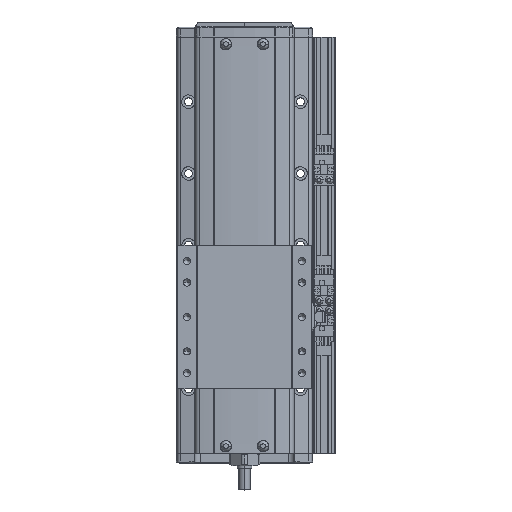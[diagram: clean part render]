
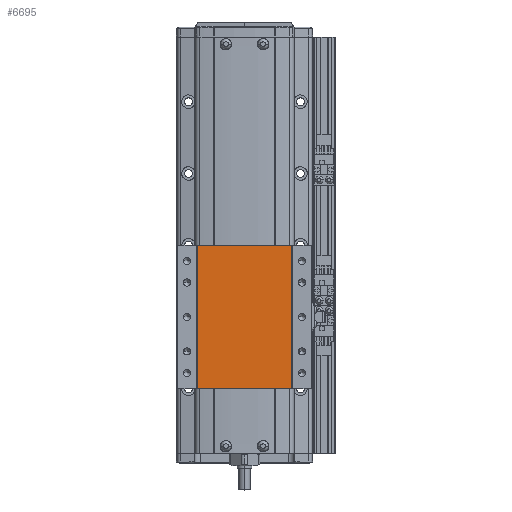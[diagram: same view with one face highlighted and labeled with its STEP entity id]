
A CAD part, top view. The second image highlights one B-rep face of the part: STEP entity #6695.
In plain terms, the highlighted planar face has unit normal (0, 0, 1).
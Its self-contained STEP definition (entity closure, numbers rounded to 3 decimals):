
#6695=ADVANCED_FACE('',(#13522),#13523,.F.);
#13522=FACE_OUTER_BOUND('',#22085,.T.);
#13523=PLANE('',#22086);
#22085=EDGE_LOOP('',(#41572,#41573,#41574,#41575));
#22086=AXIS2_PLACEMENT_3D('',#41576,#41577,#41578);
#41572=ORIENTED_EDGE('',*,*,#47821,.F.);
#41573=ORIENTED_EDGE('',*,*,#47713,.F.);
#41574=ORIENTED_EDGE('',*,*,#45306,.F.);
#41575=ORIENTED_EDGE('',*,*,#48044,.T.);
#41576=CARTESIAN_POINT('',(0.,142.222,30.5));
#41577=DIRECTION('',(0.,0.,-1.0));
#41578=DIRECTION('',(-1.0,0.,0.));
#45306=EDGE_CURVE('',#55173,#55175,#55176,.T.);
#47713=EDGE_CURVE('',#55175,#58882,#58885,.T.);
#47821=EDGE_CURVE('',#58882,#59031,#59032,.T.);
#48044=EDGE_CURVE('',#55173,#59031,#59331,.T.);
#55173=VERTEX_POINT('',#68867);
#55175=VERTEX_POINT('',#68869);
#55176=LINE('',#68870,#68871);
#58882=VERTEX_POINT('',#74624);
#58885=LINE('',#74628,#74629);
#59031=VERTEX_POINT('',#74839);
#59032=LINE('',#74840,#74841);
#59331=LINE('',#75306,#75307);
#68867=CARTESIAN_POINT('',(32.876,142.222,30.5));
#68869=CARTESIAN_POINT('',(-32.876,142.222,30.5));
#68870=CARTESIAN_POINT('',(32.876,142.222,30.5));
#68871=VECTOR('',#83176,10.0);
#74624=CARTESIAN_POINT('',(-32.876,242.222,30.5));
#74628=CARTESIAN_POINT('',(-32.876,142.222,30.5));
#74629=VECTOR('',#86113,10.0);
#74839=CARTESIAN_POINT('',(32.876,242.222,30.5));
#74840=CARTESIAN_POINT('',(32.876,242.222,30.5));
#74841=VECTOR('',#86241,10.0);
#75306=CARTESIAN_POINT('',(32.876,142.222,30.5));
#75307=VECTOR('',#86490,10.0);
#83176=DIRECTION('',(-1.0,0.,0.));
#86113=DIRECTION('',(0.,1.0,0.));
#86241=DIRECTION('',(1.0,0.,0.));
#86490=DIRECTION('',(0.,1.0,0.));
